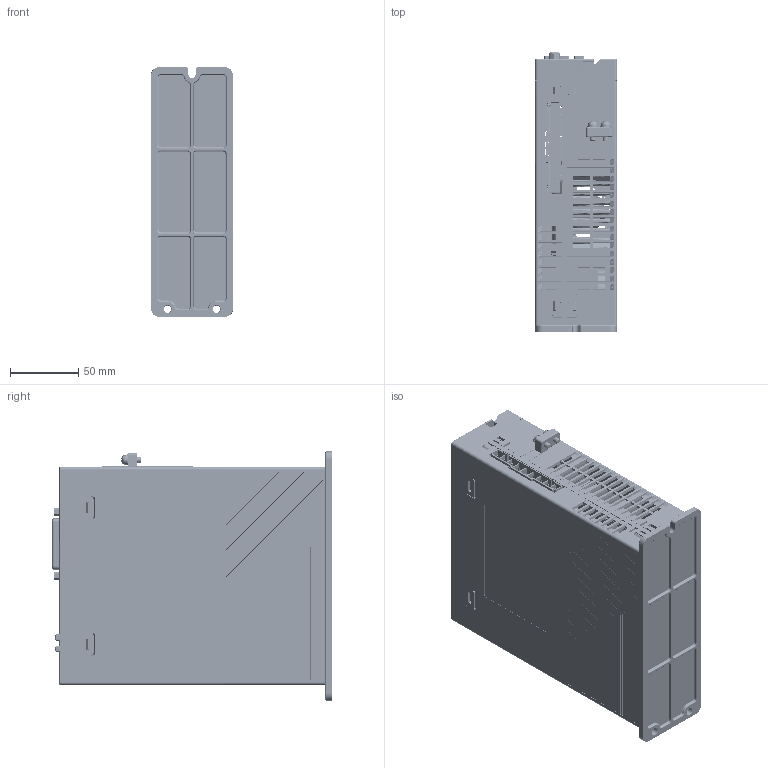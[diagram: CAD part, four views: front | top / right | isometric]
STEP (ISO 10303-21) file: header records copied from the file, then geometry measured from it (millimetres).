
FILE_DESCRIPTION((''),'2;1');
FILE_NAME('BD3E-AP_C_1500W_SW0001','2025-01-22T17:23:00',('wuyh130'),(''),'CREO PARAMETRIC BY PTC INC, 2021063','CREO PARAMETRIC BY PTC INC, 2021063','');
FILE_SCHEMA(('AUTOMOTIVE_DESIGN { 1 0 10303 214 1 1 1 1 }'));
Products named in the file (1): BD3E-AP_C_1500W_SW0001
Bounding box: 60 x 205.46 x 183 mm (x, y, z)
Surface area: 375033.6 mm2 (no closed solid volume)
Topology: 0 solids, 216 shells, 8275 faces, 27399 edges, 18871 vertices
Faces by surface type: plane 4347, cylinder 2312, bspline 932, cone 385, torus 150, sphere 79, extrusion 66, revolution 4
Entity records: 408467 total; most frequent: CARTESIAN_POINT 134319, ORIENTED_EDGE 45991, DIRECTION 42886, EDGE_CURVE 27347, VERTEX_POINT 18871, VECTOR 18487, LINE 18421, AXIS2_PLACEMENT_3D 12196
